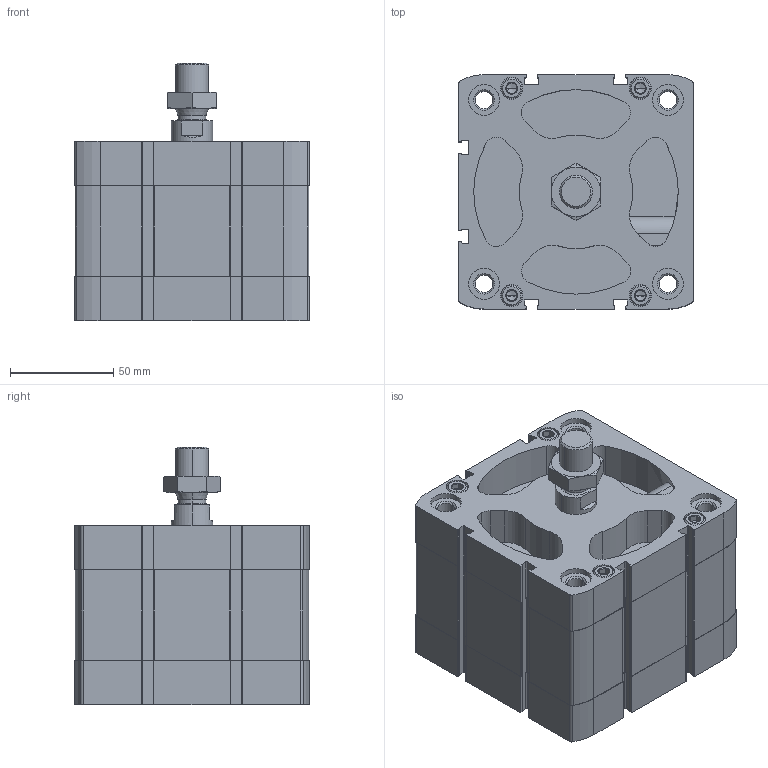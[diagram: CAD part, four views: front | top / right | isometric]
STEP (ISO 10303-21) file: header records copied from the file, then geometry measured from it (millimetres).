
FILE_DESCRIPTION (( 'STEP AP203' ), '1' );
FILE_NAME ('CCN100-20M.STEP', '2020-06-05T18:06:14', ( '' ), ( '' ), 'SwSTEP 2.0', 'SolidWorks 2019', '' );
FILE_SCHEMA (( 'CONFIG_CONTROL_DESIGN' ));
Length unit declared in the file: millimetre
Products named in the file (1): CCN100-20M
Bounding box: 113.5 x 113.5 x 124.8 mm (x, y, z)
Volume: 786597.1 mm3; surface area: 163552 mm2
Topology: 3 solids, 3 shells, 648 faces, 1673 edges, 1068 vertices
Faces by surface type: plane 292, cylinder 272, cone 80, torus 4
Entity records: 21246 total; most frequent: CARTESIAN_POINT 4984, DIRECTION 3541, ORIENTED_EDGE 3314, EDGE_CURVE 1657, AXIS2_PLACEMENT_3D 1319, VERTEX_POINT 1068, LINE 903, VECTOR 903
